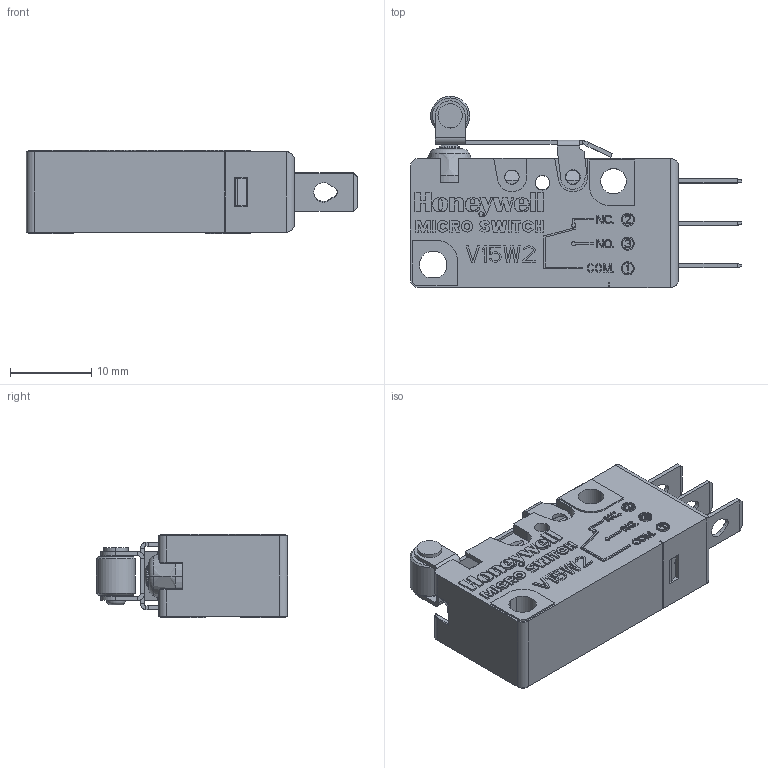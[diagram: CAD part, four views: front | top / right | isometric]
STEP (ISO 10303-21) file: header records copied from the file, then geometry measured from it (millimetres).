
FILE_DESCRIPTION((''),'2;1');
FILE_NAME('V15W2-EZ100A05-W21_SW_REVD','2018-08-16T14:45:56',('H246585'),(''),'CREO PARAMETRIC BY PTC INC, 2017380','CREO PARAMETRIC BY PTC INC, 2017380','');
FILE_SCHEMA(('CONFIG_CONTROL_DESIGN','SHAPE_APPEARANCE_LAYERS_GROUPS'));
Length unit declared in the file: millimetre
Products named in the file (1): V15W2-EZ100A05-W21_SW_REVD
Bounding box: 40.77 x 23.54 x 10.3 mm (x, y, z)
Volume: 4817.5 mm3; surface area: 3715 mm2
Topology: 2 solids, 4 shells, 1124 faces, 2995 edges, 1954 vertices
Faces by surface type: plane 868, cylinder 136, extrusion 79, torus 19, cone 10, sphere 6, bspline 6
Entity records: 35534 total; most frequent: CARTESIAN_POINT 7448, ORIENTED_EDGE 5986, DIRECTION 5299, EDGE_CURVE 2993, VECTOR 2551, LINE 2472, VERTEX_POINT 1954, AXIS2_PLACEMENT_3D 1374
